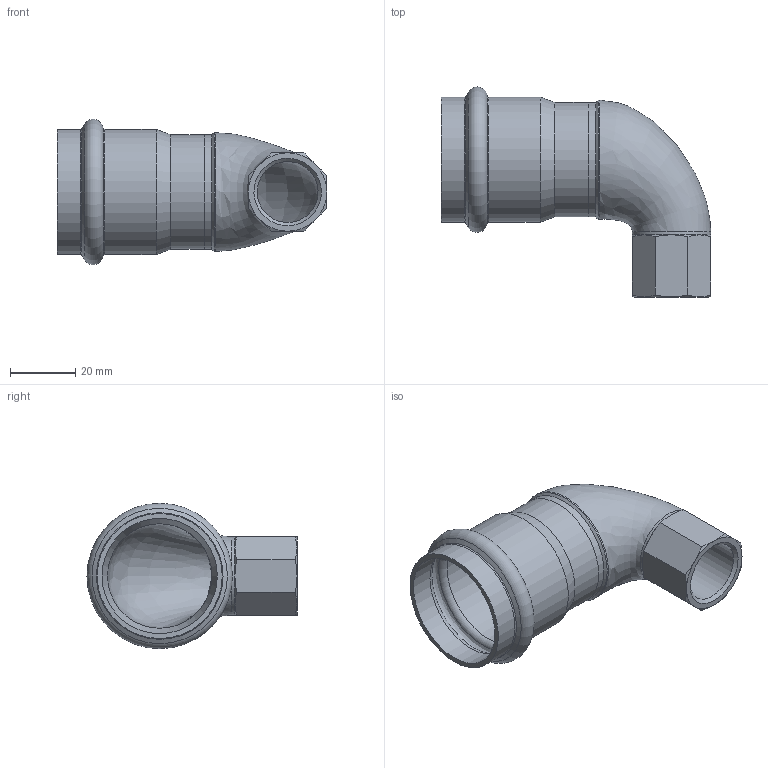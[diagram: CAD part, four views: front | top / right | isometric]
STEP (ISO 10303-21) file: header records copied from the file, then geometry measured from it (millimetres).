
FILE_DESCRIPTION((''),'2;1');
FILE_NAME('G:\Nirosan-Schmiedefeld\Technics\CAD\Bauteile VA\035\69090ig3512(0).stp','2012-04-12T13:17:23',('herberg'),(''),'Autodesk Inventor 2009','Autodesk Inventor 2009','');
FILE_SCHEMA(('AUTOMOTIVE_DESIGN { 1 0 10303 214 1 1 1 1 }'));
Length unit declared in the file: millimetre
Products named in the file (3): 69090ig3512(0); HM_6924335(1); G_69090ig3512(0)
Assembly tree (2 placements, depth 2):
  69090ig3512(0)
    HM_6924335(1)
    G_69090ig3512(0)
Bounding box: 82.5 x 64.25 x 44.5 mm (x, y, z)
Volume: 19290.9 mm3; surface area: 21304.8 mm2
Topology: 2 solids, 2 shells, 56 faces, 126 edges, 75 vertices
Faces by surface type: cone 23, plane 13, cylinder 11, bspline 6, torus 3
Full cylindrical faces by diameter (mm): 19.6 x1, 24 x1, 32 x2, 35 x2, 35.25 x2, 36.4 x1, 38.25 x2
Entity records: 1940 total; most frequent: CARTESIAN_POINT 790, DIRECTION 232, ORIENTED_EDGE 198, AXIS2_PLACEMENT_3D 112, EDGE_CURVE 99, EDGE_LOOP 86, VERTEX_POINT 73, CIRCLE 57
